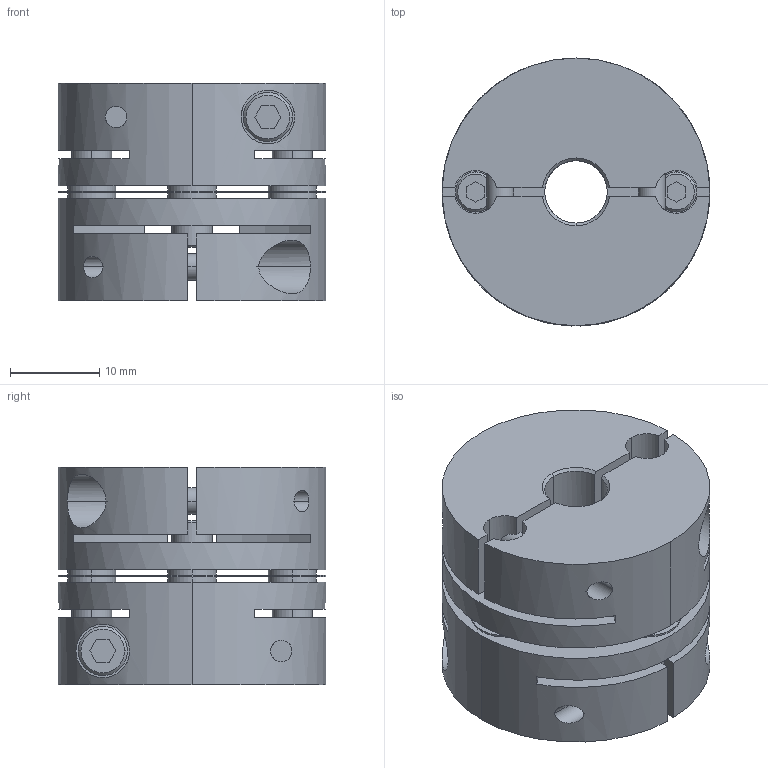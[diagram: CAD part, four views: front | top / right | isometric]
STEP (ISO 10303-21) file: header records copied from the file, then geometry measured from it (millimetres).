
FILE_DESCRIPTION((''),'2;1');
FILE_NAME('LAS-30C-7×12.stp','2011-08-10T13:12:48',(''),(''),'AutoCAD STEP 2000i','AutoCAD 2000i',', , ');
FILE_SCHEMA(('CONFIG_CONTROL_DESIGN'));
Length unit declared in the file: millimetre
Products named in the file (6): LAS-30C-6×10; 忣兜1; LA-3002-D10; LA-3002-D06-1; LA-3002-D06; LAS30-ITA
Assembly tree (5 placements, depth 2):
  LAS-30C-6×10
    忣兜1
    LA-3002-D10
    LA-3002-D06-1
    LA-3002-D06
    LAS30-ITA
Bounding box: 30 x 30 x 24.4 mm (x, y, z)
Volume: 12790.1 mm3; surface area: 9105.5 mm2
Topology: 1 solids, 1 shells, 240 faces, 636 edges, 416 vertices
Faces by surface type: plane 112, cylinder 100, cone 28
Entity records: 8333 total; most frequent: CARTESIAN_POINT 2034, DIRECTION 1316, ORIENTED_EDGE 1272, EDGE_CURVE 636, AXIS2_PLACEMENT_3D 482, VERTEX_POINT 416, VECTOR 352, LINE 352
